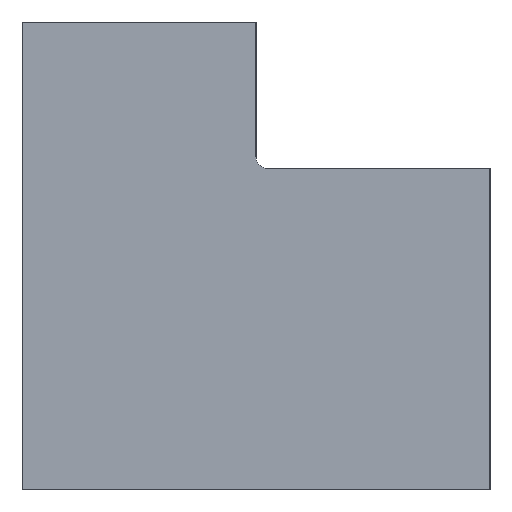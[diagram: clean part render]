
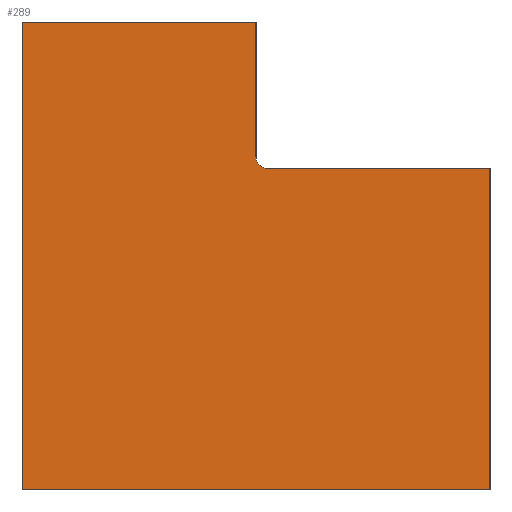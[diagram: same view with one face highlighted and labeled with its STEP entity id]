
A CAD part, left-side view. The second image highlights one B-rep face of the part: STEP entity #289.
In plain terms, the highlighted planar face has unit normal (-1, 0, 0).
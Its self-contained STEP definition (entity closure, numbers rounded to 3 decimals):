
#20=CIRCLE('',#315,0.4);
#82=ORIENTED_EDGE('',*,*,#107,.F.);
#83=ORIENTED_EDGE('',*,*,#132,.F.);
#84=ORIENTED_EDGE('',*,*,#126,.F.);
#85=ORIENTED_EDGE('',*,*,#123,.F.);
#86=ORIENTED_EDGE('',*,*,#117,.F.);
#87=ORIENTED_EDGE('',*,*,#114,.T.);
#88=ORIENTED_EDGE('',*,*,#111,.F.);
#107=EDGE_CURVE('',#140,#141,#166,.T.);
#111=EDGE_CURVE('',#141,#144,#170,.T.);
#114=EDGE_CURVE('',#146,#144,#20,.T.);
#117=EDGE_CURVE('',#146,#148,#174,.T.);
#123=EDGE_CURVE('',#148,#153,#177,.T.);
#126=EDGE_CURVE('',#153,#155,#180,.T.);
#132=EDGE_CURVE('',#155,#140,#183,.T.);
#140=VERTEX_POINT('',#432);
#141=VERTEX_POINT('',#433);
#144=VERTEX_POINT('',#441);
#146=VERTEX_POINT('',#447);
#148=VERTEX_POINT('',#453);
#153=VERTEX_POINT('',#465);
#155=VERTEX_POINT('',#471);
#166=LINE('',#431,#185);
#170=LINE('',#440,#189);
#174=LINE('',#452,#193);
#177=LINE('',#464,#196);
#180=LINE('',#470,#199);
#183=LINE('',#482,#202);
#185=VECTOR('',#348,1000.);
#189=VECTOR('',#354,1000.);
#193=VECTOR('',#366,1000.);
#196=VECTOR('',#377,1000.);
#199=VECTOR('',#382,1000.);
#202=VECTOR('',#393,1000.);
#218=EDGE_LOOP('',(#82,#83,#84,#85,#86,#87,#88));
#251=FACE_BOUND('',#218,.T.);
#277=PLANE('',#328);
#289=ADVANCED_FACE('',(#251),#277,.F.);
#315=AXIS2_PLACEMENT_3D('',#446,#359,#360);
#328=AXIS2_PLACEMENT_3D('',#485,#397,#398);
#348=DIRECTION('',(0.,-1.,0.));
#354=DIRECTION('',(0.,0.,-1.));
#359=DIRECTION('',(1.,0.,0.));
#360=DIRECTION('',(0.,0.,-1.));
#366=DIRECTION('',(0.,-1.,0.));
#377=DIRECTION('',(0.,0.,-1.));
#382=DIRECTION('',(0.,1.,0.));
#393=DIRECTION('',(0.,0.,1.));
#397=DIRECTION('',(1.,0.,0.));
#398=DIRECTION('',(0.,0.,-1.));
#431=CARTESIAN_POINT('',(-50.,16.,16.));
#432=CARTESIAN_POINT('',(-50.,16.,16.));
#433=CARTESIAN_POINT('',(-50.,8.,16.));
#440=CARTESIAN_POINT('',(-50.,8.,16.));
#441=CARTESIAN_POINT('',(-50.,8.,11.4));
#446=CARTESIAN_POINT('',(-50.,7.6,11.4));
#447=CARTESIAN_POINT('',(-50.,7.6,11.));
#452=CARTESIAN_POINT('',(-50.,7.6,11.));
#453=CARTESIAN_POINT('',(-50.,0.,11.));
#464=CARTESIAN_POINT('',(-50.,0.,11.));
#465=CARTESIAN_POINT('',(-50.,0.,0.));
#470=CARTESIAN_POINT('',(-50.,0.,0.));
#471=CARTESIAN_POINT('',(-50.,16.,0.));
#482=CARTESIAN_POINT('',(-50.,16.,0.));
#485=CARTESIAN_POINT('',(-50.,7.6,11.4));
